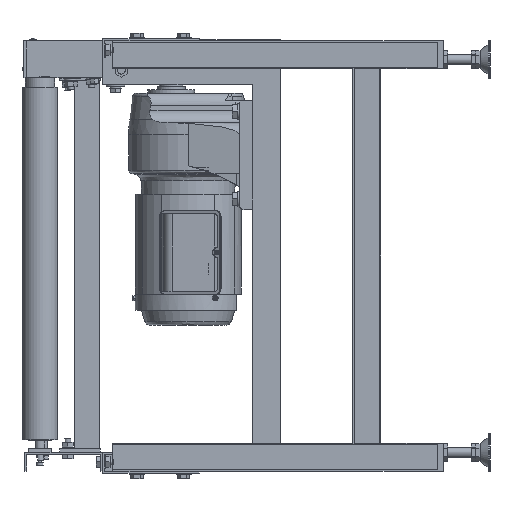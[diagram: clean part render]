
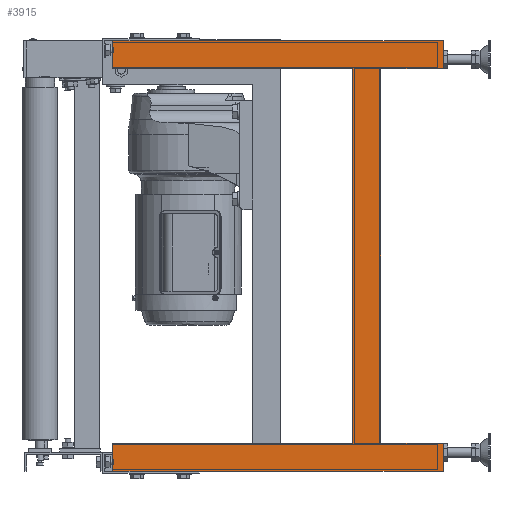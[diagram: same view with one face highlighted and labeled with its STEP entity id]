
A CAD part, left-side view. The second image highlights one B-rep face of the part: STEP entity #3915.
In plain terms, the highlighted planar face has unit normal (-1, 0, 0).
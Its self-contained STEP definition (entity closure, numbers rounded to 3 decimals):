
#3915=ADVANCED_FACE('',(#32297),#32296,.T.);
#32296=PLANE('',#54084);
#32297=FACE_OUTER_BOUND('',#54085,.T.);
#54081=CARTESIAN_POINT('',(62.5,-685.,-355.));
#54082=DIRECTION('',(-1.,0.,0.));
#54083=DIRECTION('',(0.,0.,1.));
#54084=AXIS2_PLACEMENT_3D('',#54081,#54082,#54083);
#54085=EDGE_LOOP('',(#71536,#71537,#71538,#71539,#71540,#71541,#71542,#71543,#71544,#71545,#71546,#71547,#71548,#71549,#71550,#71551,#71552,#71553));
#71536=ORIENTED_EDGE('',*,*,#81840,.T.);
#71537=ORIENTED_EDGE('',*,*,#81922,.T.);
#71538=ORIENTED_EDGE('',*,*,#81923,.F.);
#71539=ORIENTED_EDGE('',*,*,#81924,.T.);
#71540=ORIENTED_EDGE('',*,*,#81916,.T.);
#71541=ORIENTED_EDGE('',*,*,#81913,.F.);
#71542=ORIENTED_EDGE('',*,*,#81724,.T.);
#71543=ORIENTED_EDGE('',*,*,#81925,.T.);
#71544=ORIENTED_EDGE('',*,*,#81734,.T.);
#71545=ORIENTED_EDGE('',*,*,#81926,.T.);
#71546=ORIENTED_EDGE('',*,*,#81918,.T.);
#71547=ORIENTED_EDGE('',*,*,#81927,.T.);
#71548=ORIENTED_EDGE('',*,*,#81928,.F.);
#71549=ORIENTED_EDGE('',*,*,#81929,.F.);
#71550=ORIENTED_EDGE('',*,*,#81930,.F.);
#71551=ORIENTED_EDGE('',*,*,#81931,.T.);
#71552=ORIENTED_EDGE('',*,*,#81843,.T.);
#71553=ORIENTED_EDGE('',*,*,#81932,.T.);
#81724=EDGE_CURVE('',#126945,#126946,#126947,.T.);
#81734=EDGE_CURVE('',#127015,#127008,#127016,.T.);
#81840=EDGE_CURVE('',#127718,#127711,#127719,.T.);
#81843=EDGE_CURVE('',#127697,#127732,#127739,.T.);
#81913=EDGE_CURVE('',#126945,#128131,#128201,.T.);
#81916=EDGE_CURVE('',#128208,#128131,#128221,.T.);
#81918=EDGE_CURVE('',#128235,#128227,#128236,.T.);
#81922=EDGE_CURVE('',#127711,#128262,#128263,.T.);
#81923=EDGE_CURVE('',#128269,#128262,#128270,.T.);
#81924=EDGE_CURVE('',#128269,#128208,#128276,.T.);
#81925=EDGE_CURVE('',#126946,#127015,#128282,.T.);
#81926=EDGE_CURVE('',#127008,#128235,#128288,.T.);
#81927=EDGE_CURVE('',#128227,#128294,#128295,.T.);
#81928=EDGE_CURVE('',#128301,#128294,#128302,.T.);
#81929=EDGE_CURVE('',#128308,#128301,#128309,.T.);
#81930=EDGE_CURVE('',#128315,#128308,#128316,.T.);
#81931=EDGE_CURVE('',#128315,#127697,#128322,.T.);
#81932=EDGE_CURVE('',#127732,#127718,#128328,.T.);
#126945=VERTEX_POINT('',#166432);
#126946=VERTEX_POINT('',#166433);
#126947=LINE('',#166434,#166435);
#127008=VERTEX_POINT('',#166470);
#127015=VERTEX_POINT('',#166474);
#127016=LINE('',#166475,#166476);
#127697=VERTEX_POINT('',#166880);
#127711=VERTEX_POINT('',#166888);
#127718=VERTEX_POINT('',#166892);
#127719=LINE('',#166893,#166894);
#127732=VERTEX_POINT('',#166901);
#127739=LINE('',#166906,#166907);
#128131=VERTEX_POINT('',#167129);
#128201=LINE('',#167169,#167170);
#128208=VERTEX_POINT('',#167173);
#128221=LINE('',#167180,#167181);
#128227=VERTEX_POINT('',#167183);
#128235=VERTEX_POINT('',#167188);
#128236=LINE('',#167189,#167190);
#128262=VERTEX_POINT('',#167204);
#128263=LINE('',#167205,#167206);
#128269=VERTEX_POINT('',#167208);
#128270=LINE('',#167209,#167210);
#128276=LINE('',#167212,#167213);
#128282=LINE('',#167215,#167216);
#128288=LINE('',#167218,#167219);
#128294=VERTEX_POINT('',#167221);
#128295=LINE('',#167222,#167223);
#128301=VERTEX_POINT('',#167225);
#128302=LINE('',#167226,#167227);
#128308=VERTEX_POINT('',#167229);
#128309=LINE('',#167230,#167231);
#128315=VERTEX_POINT('',#167233);
#128316=LINE('',#167234,#167235);
#128322=LINE('',#167237,#167238);
#128328=LINE('',#167240,#167241);
#166432=CARTESIAN_POINT('',(62.5,-144.,-345.));
#166433=CARTESIAN_POINT('',(62.5,-187.768,-345.));
#166434=CARTESIAN_POINT('',(62.5,-144.,-345.));
#166435=VECTOR('',#166436,43.768);
#166436=DIRECTION('',(0.,-1.,0.));
#166470=CARTESIAN_POINT('',(62.5,-284.,-345.));
#166474=CARTESIAN_POINT('',(62.5,-199.548,-345.));
#166475=CARTESIAN_POINT('',(62.5,-199.548,-345.));
#166476=VECTOR('',#166477,84.452);
#166477=DIRECTION('',(0.,-1.,0.));
#166880=CARTESIAN_POINT('',(62.5,-284.,345.));
#166888=CARTESIAN_POINT('',(62.5,-144.,345.));
#166892=CARTESIAN_POINT('',(62.5,-187.768,345.));
#166893=CARTESIAN_POINT('',(62.5,-187.768,345.));
#166894=VECTOR('',#166895,43.768);
#166895=DIRECTION('',(0.,1.,0.));
#166901=CARTESIAN_POINT('',(62.5,-199.548,345.));
#166906=CARTESIAN_POINT('',(62.5,-284.,345.));
#166907=VECTOR('',#166908,84.452);
#166908=DIRECTION('',(0.,1.,0.));
#167129=CARTESIAN_POINT('',(62.5,-144.,-300.));
#167169=CARTESIAN_POINT('',(62.5,-144.,-345.));
#167170=VECTOR('',#167171,45.);
#167171=DIRECTION('',(0.,0.,1.));
#167173=CARTESIAN_POINT('',(62.5,-530.,-300.));
#167180=CARTESIAN_POINT('',(62.5,-530.,-300.));
#167181=VECTOR('',#167182,386.);
#167182=DIRECTION('',(0.,1.,0.));
#167183=CARTESIAN_POINT('',(62.5,-675.,-300.));
#167188=CARTESIAN_POINT('',(62.5,-675.,-345.));
#167189=CARTESIAN_POINT('',(62.5,-675.,-345.));
#167190=VECTOR('',#167191,45.);
#167191=DIRECTION('',(0.,0.,1.));
#167204=CARTESIAN_POINT('',(62.5,-144.,300.));
#167205=CARTESIAN_POINT('',(62.5,-144.,345.));
#167206=VECTOR('',#167207,45.);
#167207=DIRECTION('',(0.,0.,-1.));
#167208=CARTESIAN_POINT('',(62.5,-530.,300.));
#167209=CARTESIAN_POINT('',(62.5,-530.,300.));
#167210=VECTOR('',#167211,386.);
#167211=DIRECTION('',(0.,1.,0.));
#167212=CARTESIAN_POINT('',(62.5,-530.,300.));
#167213=VECTOR('',#167214,600.);
#167214=DIRECTION('',(0.,0.,-1.));
#167215=CARTESIAN_POINT('',(62.5,-187.768,-345.));
#167216=VECTOR('',#167217,11.78);
#167217=DIRECTION('',(0.,-1.,0.));
#167218=CARTESIAN_POINT('',(62.5,-284.,-345.));
#167219=VECTOR('',#167220,391.);
#167220=DIRECTION('',(0.,-1.,0.));
#167221=CARTESIAN_POINT('',(62.5,-575.,-300.));
#167222=CARTESIAN_POINT('',(62.5,-675.,-300.));
#167223=VECTOR('',#167224,100.);
#167224=DIRECTION('',(0.,1.,0.));
#167225=CARTESIAN_POINT('',(62.5,-575.,300.));
#167226=CARTESIAN_POINT('',(62.5,-575.,300.));
#167227=VECTOR('',#167228,600.);
#167228=DIRECTION('',(0.,0.,-1.));
#167229=CARTESIAN_POINT('',(62.5,-675.,300.));
#167230=CARTESIAN_POINT('',(62.5,-675.,300.));
#167231=VECTOR('',#167232,100.);
#167232=DIRECTION('',(0.,1.,0.));
#167233=CARTESIAN_POINT('',(62.5,-675.,345.));
#167234=CARTESIAN_POINT('',(62.5,-675.,345.));
#167235=VECTOR('',#167236,45.);
#167236=DIRECTION('',(0.,0.,-1.));
#167237=CARTESIAN_POINT('',(62.5,-675.,345.));
#167238=VECTOR('',#167239,391.);
#167239=DIRECTION('',(0.,1.,0.));
#167240=CARTESIAN_POINT('',(62.5,-199.548,345.));
#167241=VECTOR('',#167242,11.78);
#167242=DIRECTION('',(0.,1.,0.));
